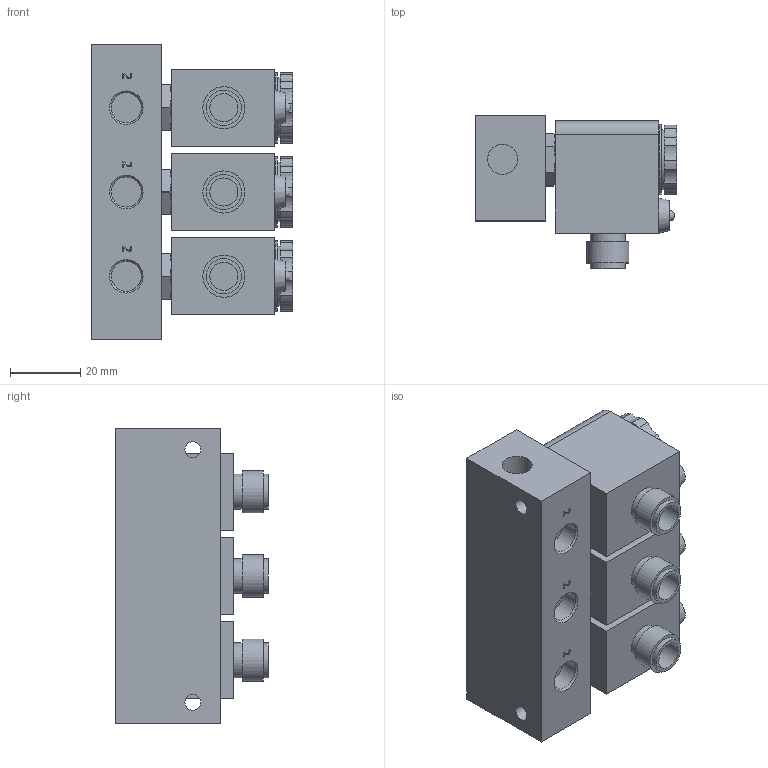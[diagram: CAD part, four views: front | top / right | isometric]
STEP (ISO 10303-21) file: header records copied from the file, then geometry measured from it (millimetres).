
FILE_DESCRIPTION (( 'STEP AP214' ), '1' );
FILE_NAME ('MSO-18-310_3-HN-O12_Airtec.step', '2018-12-14T07:40:49', ( '' ), ( '' ), 'SwSTEP 2.0', 'SolidWorks 2010', '' );
FILE_SCHEMA (( 'AUTOMOTIVE_DESIGN' ));
Length unit declared in the file: millimetre
Products named in the file (3): Volumenkörper4; Volumenkörper1; MSO-18-310_3-HN-O12_Airtec
Assembly tree (4 placements, depth 2):
  MSO-18-310_3-HN-O12_Airtec
    Volumenkörper1  x3
    Volumenkörper4
Bounding box: 57.45 x 43.5 x 84 mm (x, y, z)
Volume: 117361.9 mm3; surface area: 35378.2 mm2
Topology: 4 solids, 4 shells, 448 faces, 1070 edges, 697 vertices
Faces by surface type: plane 175, cylinder 144, bspline 78, cone 39, torus 9, sphere 3
Full cylindrical faces by diameter (mm): 4.134 x3, 4.5 x2, 6.647 x3, 7.4 x2, 8 x6, 8.1 x3, 8.2 x3, 8.566 x5, 9.04 x6, 10 x6, 10.5 x3, 12 x3, 13.2 x3, 17.041 x3, 20.1 x3
Entity records: 15301 total; most frequent: CARTESIAN_POINT 3644, ORIENTED_EDGE 1786, DIRECTION 1665, EDGE_CURVE 893, AXIS2_PLACEMENT_3D 639, VERTEX_POINT 624, EDGE_LOOP 549, FACE_OUTER_BOUND 467
